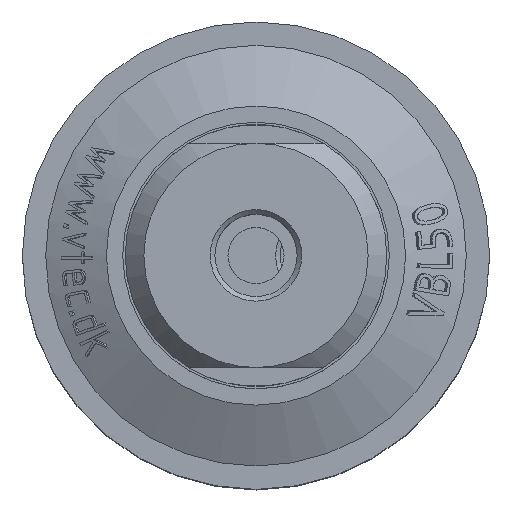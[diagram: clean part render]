
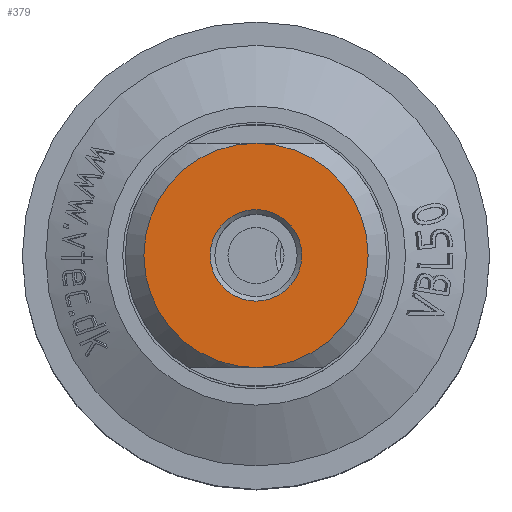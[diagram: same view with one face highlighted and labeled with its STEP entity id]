
A CAD part, top view. The second image highlights one B-rep face of the part: STEP entity #379.
In plain terms, the highlighted planar face has unit normal (0, 0, 1).
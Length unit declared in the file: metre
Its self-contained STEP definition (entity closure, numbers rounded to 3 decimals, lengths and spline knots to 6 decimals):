
#379 = ADVANCED_FACE( '', ( #881, #882 ), #883, .F. );
#881 = FACE_OUTER_BOUND( '', #6148, .T. );
#882 = FACE_BOUND( '', #6149, .T. );
#883 = PLANE( '', #6150 );
#6148 = EDGE_LOOP( '', ( #7338, #7339 ) );
#6149 = EDGE_LOOP( '', ( #7340 ) );
#6150 = AXIS2_PLACEMENT_3D( '', #7341, #7342, #7343 );
#7338 = ORIENTED_EDGE( '', *, *, #7888, .F. );
#7339 = ORIENTED_EDGE( '', *, *, #7874, .F. );
#7340 = ORIENTED_EDGE( '', *, *, #7892, .T. );
#7341 = CARTESIAN_POINT( '', ( 0.0021, 0., 0.008493 ) );
#7342 = DIRECTION( '', ( 0., 0., -1. ) );
#7343 = DIRECTION( '', ( -1., 0., 0. ) );
#7874 = EDGE_CURVE( '', #8658, #8660, #8661, .T. );
#7888 = EDGE_CURVE( '', #8660, #8658, #8684, .T. );
#7892 = EDGE_CURVE( '', #8689, #8689, #8690, .T. );
#8658 = VERTEX_POINT( '', #11790 );
#8660 = VERTEX_POINT( '', #11802 );
#8661 = CIRCLE( '', #11803, 0.012 );
#8684 = CIRCLE( '', #11848, 0.012 );
#8689 = VERTEX_POINT( '', #11861 );
#8690 = CIRCLE( '', #11862, 0.0049 );
#11790 = CARTESIAN_POINT( '', ( 0.007, -0.012, 0.008493 ) );
#11802 = CARTESIAN_POINT( '', ( 0.007, 0.012, 0.008493 ) );
#11803 = AXIS2_PLACEMENT_3D( '', #12110, #12111, #12112 );
#11848 = AXIS2_PLACEMENT_3D( '', #12136, #12137, #12138 );
#11861 = CARTESIAN_POINT( '', ( 0.0021, 0., 0.008493 ) );
#11862 = AXIS2_PLACEMENT_3D( '', #12143, #12144, #12145 );
#12110 = CARTESIAN_POINT( '', ( 0.007, 0., 0.008493 ) );
#12111 = DIRECTION( '', ( 0., 0., -1. ) );
#12112 = DIRECTION( '', ( -1., 0., 0. ) );
#12136 = CARTESIAN_POINT( '', ( 0.007, 0., 0.008493 ) );
#12137 = DIRECTION( '', ( 0., 0., -1. ) );
#12138 = DIRECTION( '', ( -1., 0., 0. ) );
#12143 = CARTESIAN_POINT( '', ( 0.007, 0., 0.008493 ) );
#12144 = DIRECTION( '', ( 0., 0., -1. ) );
#12145 = DIRECTION( '', ( -1., 0., 0. ) );
